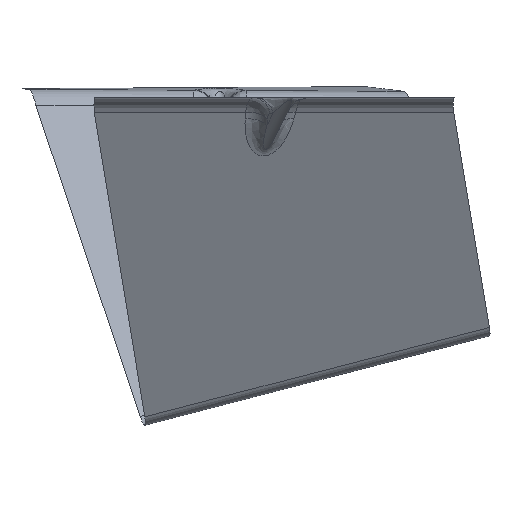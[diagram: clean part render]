
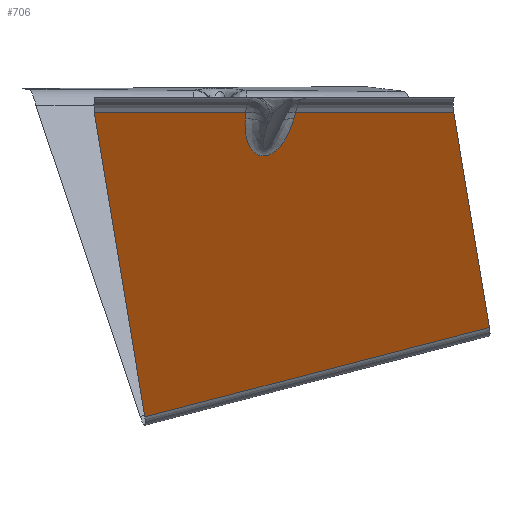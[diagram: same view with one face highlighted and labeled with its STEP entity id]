
A CAD part, left-side view. The second image highlights one B-rep face of the part: STEP entity #706.
In plain terms, the highlighted planar face has unit normal (-0.83, -0.249, -0.5).
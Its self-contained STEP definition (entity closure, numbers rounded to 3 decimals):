
#251=CARTESIAN_POINT('Vertex',(-95.396,8.076,-0.9)) ;
#274=CARTESIAN_POINT('Line Origine',(-75.684,10.391,-34.753)) ;
#278=CARTESIAN_POINT('Vertex',(-94.347,8.199,-2.701)) ;
#591=CARTESIAN_POINT('Control Point',(-90.272,-5.384,-2.701)) ;
#592=CARTESIAN_POINT('Control Point',(-90.052,-5.274,-3.121)) ;
#593=CARTESIAN_POINT('Control Point',(-89.835,-5.153,-3.541)) ;
#594=CARTESIAN_POINT('Control Point',(-89.622,-5.022,-3.96)) ;
#595=CARTESIAN_POINT('Control Point',(-89.019,-4.614,-5.163)) ;
#596=CARTESIAN_POINT('Control Point',(-88.45,-4.113,-6.357)) ;
#597=CARTESIAN_POINT('Control Point',(-88.096,-3.745,-7.126)) ;
#598=CARTESIAN_POINT('Control Point',(-87.62,-3.152,-8.212)) ;
#599=CARTESIAN_POINT('Control Point',(-87.198,-2.435,-9.269)) ;
#600=CARTESIAN_POINT('Control Point',(-87.079,-2.211,-9.578)) ;
#601=CARTESIAN_POINT('Control Point',(-86.871,-1.774,-10.141)) ;
#602=CARTESIAN_POINT('Control Point',(-86.689,-1.285,-10.686)) ;
#603=CARTESIAN_POINT('Control Point',(-86.612,-1.05,-10.929)) ;
#604=CARTESIAN_POINT('Control Point',(-86.445,-0.448,-11.507)) ;
#605=CARTESIAN_POINT('Control Point',(-86.333,0.244,-12.037)) ;
#606=CARTESIAN_POINT('Control Point',(-86.292,0.694,-12.329)) ;
#607=CARTESIAN_POINT('Control Point',(-86.287,1.363,-12.67)) ;
#608=CARTESIAN_POINT('Control Point',(-86.381,2.104,-12.884)) ;
#609=CARTESIAN_POINT('Control Point',(-86.413,2.303,-12.93)) ;
#610=CARTESIAN_POINT('Control Point',(-86.499,2.738,-13.003)) ;
#611=CARTESIAN_POINT('Control Point',(-86.622,3.176,-13.017)) ;
#612=CARTESIAN_POINT('Control Point',(-86.698,3.409,-13.006)) ;
#613=CARTESIAN_POINT('Control Point',(-86.93,4.025,-12.928)) ;
#614=CARTESIAN_POINT('Control Point',(-87.213,4.577,-12.734)) ;
#615=CARTESIAN_POINT('Control Point',(-87.405,4.893,-12.573)) ;
#616=CARTESIAN_POINT('Control Point',(-87.742,5.385,-12.258)) ;
#617=CARTESIAN_POINT('Control Point',(-88.087,5.796,-11.89)) ;
#618=CARTESIAN_POINT('Control Point',(-88.234,5.958,-11.727)) ;
#619=CARTESIAN_POINT('Control Point',(-88.566,6.298,-11.346)) ;
#620=CARTESIAN_POINT('Control Point',(-88.896,6.586,-10.941)) ;
#621=CARTESIAN_POINT('Control Point',(-89.08,6.733,-10.71)) ;
#622=CARTESIAN_POINT('Control Point',(-89.492,7.038,-10.177)) ;
#623=CARTESIAN_POINT('Control Point',(-89.899,7.287,-9.626)) ;
#624=CARTESIAN_POINT('Control Point',(-90.124,7.411,-9.315)) ;
#625=CARTESIAN_POINT('Control Point',(-90.624,7.66,-8.609)) ;
#626=CARTESIAN_POINT('Control Point',(-91.114,7.848,-7.889)) ;
#627=CARTESIAN_POINT('Control Point',(-91.384,7.936,-7.486)) ;
#628=CARTESIAN_POINT('Control Point',(-92.163,8.151,-6.301)) ;
#629=CARTESIAN_POINT('Control Point',(-92.917,8.249,-5.098)) ;
#630=CARTESIAN_POINT('Control Point',(-93.404,8.271,-4.302)) ;
#631=CARTESIAN_POINT('Control Point',(-93.88,8.254,-3.503)) ;
#632=CARTESIAN_POINT('Control Point',(-94.347,8.199,-2.701)) ;
#633=CARTESIAN_POINT('Vertex',(-90.272,-5.384,-2.701)) ;
#651=CARTESIAN_POINT('Axis2P3D Location',(-42.355,-12.706,-78.552)) ;
#656=CARTESIAN_POINT('Line Origine',(-90.744,-5.622,-1.801)) ;
#660=CARTESIAN_POINT('Vertex',(-91.215,-5.859,-0.9)) ;
#663=CARTESIAN_POINT('Line Origine',(-101.711,29.126,-0.9)) ;
#667=CARTESIAN_POINT('Vertex',(-108.026,50.176,-0.9)) ;
#670=CARTESIAN_POINT('Line Origine',(-80.387,43.149,-43.256)) ;
#674=CARTESIAN_POINT('Vertex',(-52.747,36.122,-85.613)) ;
#677=CARTESIAN_POINT('Line Origine',(-45.867,-11.813,-73.17)) ;
#681=CARTESIAN_POINT('Vertex',(-38.986,-59.749,-60.728)) ;
#684=CARTESIAN_POINT('Line Origine',(-58.506,-54.787,-30.814)) ;
#688=CARTESIAN_POINT('Vertex',(-78.026,-49.824,-0.9)) ;
#691=CARTESIAN_POINT('Line Origine',(-84.621,-27.841,-0.9)) ;
#275=DIRECTION('Vector Direction',(0.502,0.059,-0.863)) ;
#652=DIRECTION('Axis2P3D Direction',(0.83,0.249,0.5)) ;
#653=DIRECTION('Axis2P3D XDirection',(0.541,-0.138,-0.83)) ;
#657=DIRECTION('Vector Direction',(-0.452,-0.227,0.863)) ;
#664=DIRECTION('Vector Direction',(0.287,-0.958,0.)) ;
#671=DIRECTION('Vector Direction',(0.541,-0.138,-0.83)) ;
#678=DIRECTION('Vector Direction',(0.138,-0.959,0.249)) ;
#685=DIRECTION('Vector Direction',(-0.541,0.138,0.83)) ;
#692=DIRECTION('Vector Direction',(0.287,-0.958,0.)) ;
#654=AXIS2_PLACEMENT_3D('Plane Axis2P3D',#651,#652,#653) ;
#697=ORIENTED_EDGE('',*,*,#662,.T.) ;
#698=ORIENTED_EDGE('',*,*,#635,.T.) ;
#699=ORIENTED_EDGE('',*,*,#280,.T.) ;
#700=ORIENTED_EDGE('',*,*,#669,.F.) ;
#701=ORIENTED_EDGE('',*,*,#676,.T.) ;
#702=ORIENTED_EDGE('',*,*,#683,.T.) ;
#703=ORIENTED_EDGE('',*,*,#690,.T.) ;
#704=ORIENTED_EDGE('',*,*,#695,.F.) ;
#276=VECTOR('Line Direction',#275,1.) ;
#658=VECTOR('Line Direction',#657,1.) ;
#665=VECTOR('Line Direction',#664,1.) ;
#672=VECTOR('Line Direction',#671,1.) ;
#679=VECTOR('Line Direction',#678,1.) ;
#686=VECTOR('Line Direction',#685,1.) ;
#693=VECTOR('Line Direction',#692,1.) ;
#706=ADVANCED_FACE('Extract.1',(#705),#655,.F.) ;
#590=B_SPLINE_CURVE_WITH_KNOTS('',5,(#591,#592,#593,#594,#595,#596,#597,#598,#599,#600,#601,#602,#603,#604,#605,#606,#607,#608,#609,#610,#611,#612,#613,#614,#615,#616,#617,#618,#619,#620,#621,#622,#623,#624,#625,#626,#627,#628,#629,#630,#631,#632),.UNSPECIFIED.,.F.,.U.,(6,3,3,3,3,3,3,3,3,3,3,3,3,6),(25.291,28.53,34.594,37.152,39.298,42.36,43.448,44.711,46.896,48.512,50.548,53.123,56.319,62.493),.UNSPECIFIED.) ;
#280=EDGE_CURVE('',#279,#252,#277,.F.) ;
#635=EDGE_CURVE('',#634,#279,#590,.T.) ;
#662=EDGE_CURVE('',#661,#634,#659,.F.) ;
#669=EDGE_CURVE('',#668,#252,#666,.T.) ;
#676=EDGE_CURVE('',#668,#675,#673,.T.) ;
#683=EDGE_CURVE('',#675,#682,#680,.T.) ;
#690=EDGE_CURVE('',#682,#689,#687,.T.) ;
#695=EDGE_CURVE('',#661,#689,#694,.T.) ;
#696=EDGE_LOOP('',(#697,#698,#699,#700,#701,#702,#703,#704)) ;
#705=FACE_OUTER_BOUND('',#696,.T.) ;
#277=LINE('Line',#274,#276) ;
#659=LINE('Line',#656,#658) ;
#666=LINE('Line',#663,#665) ;
#673=LINE('Line',#670,#672) ;
#680=LINE('Line',#677,#679) ;
#687=LINE('Line',#684,#686) ;
#694=LINE('Line',#691,#693) ;
#655=PLANE('',#654) ;
#252=VERTEX_POINT('',#251) ;
#279=VERTEX_POINT('',#278) ;
#634=VERTEX_POINT('',#633) ;
#661=VERTEX_POINT('',#660) ;
#668=VERTEX_POINT('',#667) ;
#675=VERTEX_POINT('',#674) ;
#682=VERTEX_POINT('',#681) ;
#689=VERTEX_POINT('',#688) ;
